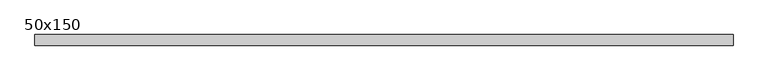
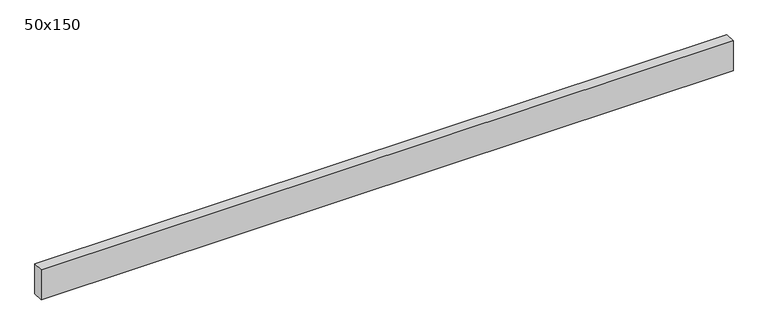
"""IFC4 building model written with IfcOpenShell, lengths in millimetres: beam geometry, Graded Timber : 50x150."""

from ifc_helpers import new_model, si_unit, frame, origin, place, context, project, spatial, polyline, outline, extrude, source, transform, mapped, element, save


def beam_50x150_70297680(model_context):
    return source(origin(), model_context, "Body", "SweptSolid", [
        extrude(outline(polyline([(1637.0, 25.0), (1637.0, -25.0), (-1637.0, -25.0), (-1637.0, 25.0), (1637.0, 25.0)])), frame((0.0, 0.0, -75.0), z_axis=(0.0, 0.0, 1.0), x_axis=(1.0, 0.0, 0.0)), (0.0, 0.0, 1.0), 150.0),
    ])


if __name__ == "__main__":
    model = new_model("IFC4")
    model_context = context("Model", 3, world=origin())
    ifc_project = project(units=[si_unit("LENGTHUNIT", "METRE", prefix="MILLI")], contexts=[model_context])
    site = spatial("IfcSite", under=ifc_project)
    building = spatial("IfcBuilding", under=site)
    placement = place(None, origin())
    beam_50x150_shape = beam_50x150_70297680(model_context)
    element("IfcBeam", 1, ObjectType="Graded Timber : 50x150", at=placement, inside=building, context=model_context, shape_type="MappedRepresentation", body=[
        mapped(beam_50x150_shape, transform((0.0, 0.0, 0.0), x_axis=(1.0, 0.0, 0.0), y_axis=(0.0, 1.0, 0.0), z_axis=(0.0, 0.0, 1.0))),
    ])
    save(model, "model.ifc")
